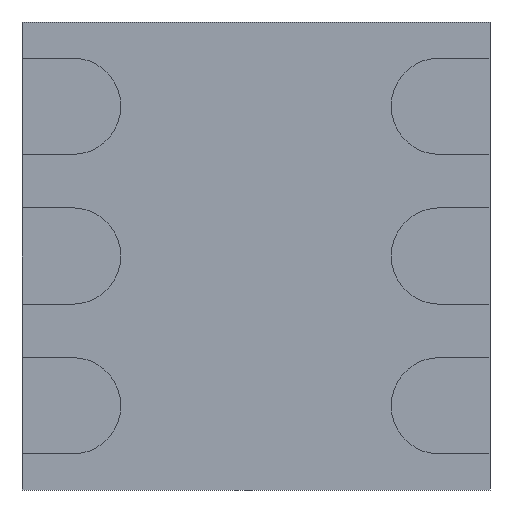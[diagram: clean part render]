
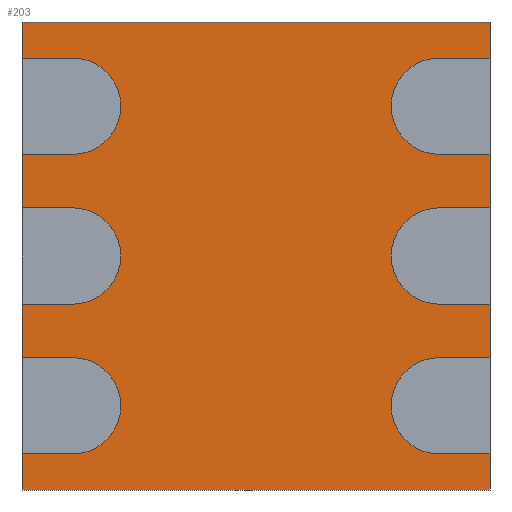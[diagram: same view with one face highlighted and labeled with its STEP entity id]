
A CAD part, front view. The second image highlights one B-rep face of the part: STEP entity #203.
In plain terms, the highlighted planar face has unit normal (0, -1, 0).
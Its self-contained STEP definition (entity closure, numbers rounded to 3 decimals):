
#71 = EDGE_CURVE('',#72,#74,#76,.T.);
#72 = VERTEX_POINT('',#73);
#73 = CARTESIAN_POINT('',(2.5,0.05,-2.5));
#74 = VERTEX_POINT('',#75);
#75 = CARTESIAN_POINT('',(2.5,0.05,-2.115));
#76 = LINE('',#77,#78);
#77 = CARTESIAN_POINT('',(2.5,0.05,-2.5));
#78 = VECTOR('',#79,1.);
#79 = DIRECTION('',(0.,0.,1.));
#98 = VERTEX_POINT('',#99);
#99 = CARTESIAN_POINT('',(2.5,0.05,2.5));
#105 = EDGE_CURVE('',#106,#98,#108,.T.);
#106 = VERTEX_POINT('',#107);
#107 = CARTESIAN_POINT('',(2.5,0.05,2.115));
#108 = LINE('',#109,#110);
#109 = CARTESIAN_POINT('',(2.5,0.05,-2.5));
#110 = VECTOR('',#111,1.);
#111 = DIRECTION('',(0.,0.,1.));
#130 = VERTEX_POINT('',#131);
#131 = CARTESIAN_POINT('',(2.5,0.05,1.085));
#137 = EDGE_CURVE('',#138,#130,#140,.T.);
#138 = VERTEX_POINT('',#139);
#139 = CARTESIAN_POINT('',(2.5,0.05,0.515));
#140 = LINE('',#141,#142);
#141 = CARTESIAN_POINT('',(2.5,0.05,-2.5));
#142 = VECTOR('',#143,1.);
#143 = DIRECTION('',(0.,0.,1.));
#162 = VERTEX_POINT('',#163);
#163 = CARTESIAN_POINT('',(2.5,0.05,-0.515));
#169 = EDGE_CURVE('',#170,#162,#172,.T.);
#170 = VERTEX_POINT('',#171);
#171 = CARTESIAN_POINT('',(2.5,0.05,-1.085));
#172 = LINE('',#173,#174);
#173 = CARTESIAN_POINT('',(2.5,0.05,-2.5));
#174 = VECTOR('',#175,1.);
#175 = DIRECTION('',(0.,0.,1.));
#203 = ADVANCED_FACE('',(#204),#400,.F.);
#204 = FACE_BOUND('',#205,.F.);
#205 = EDGE_LOOP('',(#206,#207,#215,#223,#231,#240,#248,#256,#264,#273,
    #281,#289,#297,#306,#314,#322,#328,#329,#337,#346,#352,#353,#361,
    #370,#376,#377,#385,#394));
#206 = ORIENTED_EDGE('',*,*,#71,.F.);
#207 = ORIENTED_EDGE('',*,*,#208,.F.);
#208 = EDGE_CURVE('',#209,#72,#211,.T.);
#209 = VERTEX_POINT('',#210);
#210 = CARTESIAN_POINT('',(-2.5,0.05,-2.5));
#211 = LINE('',#212,#213);
#212 = CARTESIAN_POINT('',(-2.5,0.05,-2.5));
#213 = VECTOR('',#214,1.);
#214 = DIRECTION('',(1.,0.,0.));
#215 = ORIENTED_EDGE('',*,*,#216,.F.);
#216 = EDGE_CURVE('',#217,#209,#219,.T.);
#217 = VERTEX_POINT('',#218);
#218 = CARTESIAN_POINT('',(-2.5,0.05,-2.115));
#219 = LINE('',#220,#221);
#220 = CARTESIAN_POINT('',(-2.5,0.05,2.5));
#221 = VECTOR('',#222,1.);
#222 = DIRECTION('',(0.,0.,-1.));
#223 = ORIENTED_EDGE('',*,*,#224,.T.);
#224 = EDGE_CURVE('',#217,#225,#227,.T.);
#225 = VERTEX_POINT('',#226);
#226 = CARTESIAN_POINT('',(-1.96,0.05,-2.115));
#227 = LINE('',#228,#229);
#228 = CARTESIAN_POINT('',(-0.98,0.05,-2.115));
#229 = VECTOR('',#230,1.);
#230 = DIRECTION('',(1.,0.,0.));
#231 = ORIENTED_EDGE('',*,*,#232,.T.);
#232 = EDGE_CURVE('',#225,#233,#235,.T.);
#233 = VERTEX_POINT('',#234);
#234 = CARTESIAN_POINT('',(-1.96,0.05,-1.085));
#235 = CIRCLE('',#236,0.515);
#236 = AXIS2_PLACEMENT_3D('',#237,#238,#239);
#237 = CARTESIAN_POINT('',(-1.96,0.05,-1.6));
#238 = DIRECTION('',(0.,-1.,0.));
#239 = DIRECTION('',(1.,0.,0.));
#240 = ORIENTED_EDGE('',*,*,#241,.T.);
#241 = EDGE_CURVE('',#233,#242,#244,.T.);
#242 = VERTEX_POINT('',#243);
#243 = CARTESIAN_POINT('',(-2.5,0.05,-1.085));
#244 = LINE('',#245,#246);
#245 = CARTESIAN_POINT('',(-1.25,0.05,-1.085));
#246 = VECTOR('',#247,1.);
#247 = DIRECTION('',(-1.,0.,0.));
#248 = ORIENTED_EDGE('',*,*,#249,.F.);
#249 = EDGE_CURVE('',#250,#242,#252,.T.);
#250 = VERTEX_POINT('',#251);
#251 = CARTESIAN_POINT('',(-2.5,0.05,-0.515));
#252 = LINE('',#253,#254);
#253 = CARTESIAN_POINT('',(-2.5,0.05,2.5));
#254 = VECTOR('',#255,1.);
#255 = DIRECTION('',(0.,0.,-1.));
#256 = ORIENTED_EDGE('',*,*,#257,.T.);
#257 = EDGE_CURVE('',#250,#258,#260,.T.);
#258 = VERTEX_POINT('',#259);
#259 = CARTESIAN_POINT('',(-1.96,0.05,-0.515));
#260 = LINE('',#261,#262);
#261 = CARTESIAN_POINT('',(-0.98,0.05,-0.515));
#262 = VECTOR('',#263,1.);
#263 = DIRECTION('',(1.,0.,0.));
#264 = ORIENTED_EDGE('',*,*,#265,.T.);
#265 = EDGE_CURVE('',#258,#266,#268,.T.);
#266 = VERTEX_POINT('',#267);
#267 = CARTESIAN_POINT('',(-1.96,0.05,0.515));
#268 = CIRCLE('',#269,0.515);
#269 = AXIS2_PLACEMENT_3D('',#270,#271,#272);
#270 = CARTESIAN_POINT('',(-1.96,0.05,0.));
#271 = DIRECTION('',(0.,-1.,0.));
#272 = DIRECTION('',(1.,0.,0.));
#273 = ORIENTED_EDGE('',*,*,#274,.T.);
#274 = EDGE_CURVE('',#266,#275,#277,.T.);
#275 = VERTEX_POINT('',#276);
#276 = CARTESIAN_POINT('',(-2.5,0.05,0.515));
#277 = LINE('',#278,#279);
#278 = CARTESIAN_POINT('',(-1.25,0.05,0.515));
#279 = VECTOR('',#280,1.);
#280 = DIRECTION('',(-1.,0.,0.));
#281 = ORIENTED_EDGE('',*,*,#282,.F.);
#282 = EDGE_CURVE('',#283,#275,#285,.T.);
#283 = VERTEX_POINT('',#284);
#284 = CARTESIAN_POINT('',(-2.5,0.05,1.085));
#285 = LINE('',#286,#287);
#286 = CARTESIAN_POINT('',(-2.5,0.05,2.5));
#287 = VECTOR('',#288,1.);
#288 = DIRECTION('',(0.,0.,-1.));
#289 = ORIENTED_EDGE('',*,*,#290,.T.);
#290 = EDGE_CURVE('',#283,#291,#293,.T.);
#291 = VERTEX_POINT('',#292);
#292 = CARTESIAN_POINT('',(-1.96,0.05,1.085));
#293 = LINE('',#294,#295);
#294 = CARTESIAN_POINT('',(-0.98,0.05,1.085));
#295 = VECTOR('',#296,1.);
#296 = DIRECTION('',(1.,0.,0.));
#297 = ORIENTED_EDGE('',*,*,#298,.T.);
#298 = EDGE_CURVE('',#291,#299,#301,.T.);
#299 = VERTEX_POINT('',#300);
#300 = CARTESIAN_POINT('',(-1.96,0.05,2.115));
#301 = CIRCLE('',#302,0.515);
#302 = AXIS2_PLACEMENT_3D('',#303,#304,#305);
#303 = CARTESIAN_POINT('',(-1.96,0.05,1.6));
#304 = DIRECTION('',(0.,-1.,0.));
#305 = DIRECTION('',(1.,0.,0.));
#306 = ORIENTED_EDGE('',*,*,#307,.T.);
#307 = EDGE_CURVE('',#299,#308,#310,.T.);
#308 = VERTEX_POINT('',#309);
#309 = CARTESIAN_POINT('',(-2.5,0.05,2.115));
#310 = LINE('',#311,#312);
#311 = CARTESIAN_POINT('',(-1.25,0.05,2.115));
#312 = VECTOR('',#313,1.);
#313 = DIRECTION('',(-1.,0.,0.));
#314 = ORIENTED_EDGE('',*,*,#315,.F.);
#315 = EDGE_CURVE('',#316,#308,#318,.T.);
#316 = VERTEX_POINT('',#317);
#317 = CARTESIAN_POINT('',(-2.5,0.05,2.5));
#318 = LINE('',#319,#320);
#319 = CARTESIAN_POINT('',(-2.5,0.05,2.5));
#320 = VECTOR('',#321,1.);
#321 = DIRECTION('',(0.,0.,-1.));
#322 = ORIENTED_EDGE('',*,*,#323,.F.);
#323 = EDGE_CURVE('',#98,#316,#324,.T.);
#324 = LINE('',#325,#326);
#325 = CARTESIAN_POINT('',(2.5,0.05,2.5));
#326 = VECTOR('',#327,1.);
#327 = DIRECTION('',(-1.,0.,0.));
#328 = ORIENTED_EDGE('',*,*,#105,.F.);
#329 = ORIENTED_EDGE('',*,*,#330,.T.);
#330 = EDGE_CURVE('',#106,#331,#333,.T.);
#331 = VERTEX_POINT('',#332);
#332 = CARTESIAN_POINT('',(1.96,0.05,2.115));
#333 = LINE('',#334,#335);
#334 = CARTESIAN_POINT('',(0.98,0.05,2.115));
#335 = VECTOR('',#336,1.);
#336 = DIRECTION('',(-1.,0.,0.));
#337 = ORIENTED_EDGE('',*,*,#338,.T.);
#338 = EDGE_CURVE('',#331,#339,#341,.T.);
#339 = VERTEX_POINT('',#340);
#340 = CARTESIAN_POINT('',(1.96,0.05,1.085));
#341 = CIRCLE('',#342,0.515);
#342 = AXIS2_PLACEMENT_3D('',#343,#344,#345);
#343 = CARTESIAN_POINT('',(1.96,0.05,1.6));
#344 = DIRECTION('',(0.,-1.,0.));
#345 = DIRECTION('',(1.,0.,0.));
#346 = ORIENTED_EDGE('',*,*,#347,.T.);
#347 = EDGE_CURVE('',#339,#130,#348,.T.);
#348 = LINE('',#349,#350);
#349 = CARTESIAN_POINT('',(1.25,0.05,1.085));
#350 = VECTOR('',#351,1.);
#351 = DIRECTION('',(1.,0.,0.));
#352 = ORIENTED_EDGE('',*,*,#137,.F.);
#353 = ORIENTED_EDGE('',*,*,#354,.T.);
#354 = EDGE_CURVE('',#138,#355,#357,.T.);
#355 = VERTEX_POINT('',#356);
#356 = CARTESIAN_POINT('',(1.96,0.05,0.515));
#357 = LINE('',#358,#359);
#358 = CARTESIAN_POINT('',(0.98,0.05,0.515));
#359 = VECTOR('',#360,1.);
#360 = DIRECTION('',(-1.,0.,0.));
#361 = ORIENTED_EDGE('',*,*,#362,.T.);
#362 = EDGE_CURVE('',#355,#363,#365,.T.);
#363 = VERTEX_POINT('',#364);
#364 = CARTESIAN_POINT('',(1.96,0.05,-0.515));
#365 = CIRCLE('',#366,0.515);
#366 = AXIS2_PLACEMENT_3D('',#367,#368,#369);
#367 = CARTESIAN_POINT('',(1.96,0.05,0.));
#368 = DIRECTION('',(0.,-1.,0.));
#369 = DIRECTION('',(1.,0.,0.));
#370 = ORIENTED_EDGE('',*,*,#371,.T.);
#371 = EDGE_CURVE('',#363,#162,#372,.T.);
#372 = LINE('',#373,#374);
#373 = CARTESIAN_POINT('',(1.25,0.05,-0.515));
#374 = VECTOR('',#375,1.);
#375 = DIRECTION('',(1.,0.,0.));
#376 = ORIENTED_EDGE('',*,*,#169,.F.);
#377 = ORIENTED_EDGE('',*,*,#378,.T.);
#378 = EDGE_CURVE('',#170,#379,#381,.T.);
#379 = VERTEX_POINT('',#380);
#380 = CARTESIAN_POINT('',(1.96,0.05,-1.085));
#381 = LINE('',#382,#383);
#382 = CARTESIAN_POINT('',(0.98,0.05,-1.085));
#383 = VECTOR('',#384,1.);
#384 = DIRECTION('',(-1.,0.,0.));
#385 = ORIENTED_EDGE('',*,*,#386,.T.);
#386 = EDGE_CURVE('',#379,#387,#389,.T.);
#387 = VERTEX_POINT('',#388);
#388 = CARTESIAN_POINT('',(1.96,0.05,-2.115));
#389 = CIRCLE('',#390,0.515);
#390 = AXIS2_PLACEMENT_3D('',#391,#392,#393);
#391 = CARTESIAN_POINT('',(1.96,0.05,-1.6));
#392 = DIRECTION('',(0.,-1.,0.));
#393 = DIRECTION('',(1.,0.,0.));
#394 = ORIENTED_EDGE('',*,*,#395,.T.);
#395 = EDGE_CURVE('',#387,#74,#396,.T.);
#396 = LINE('',#397,#398);
#397 = CARTESIAN_POINT('',(1.25,0.05,-2.115));
#398 = VECTOR('',#399,1.);
#399 = DIRECTION('',(1.,0.,0.));
#400 = PLANE('',#401);
#401 = AXIS2_PLACEMENT_3D('',#402,#403,#404);
#402 = CARTESIAN_POINT('',(0.,0.05,0.));
#403 = DIRECTION('',(0.,1.,0.));
#404 = DIRECTION('',(0.,0.,1.));
